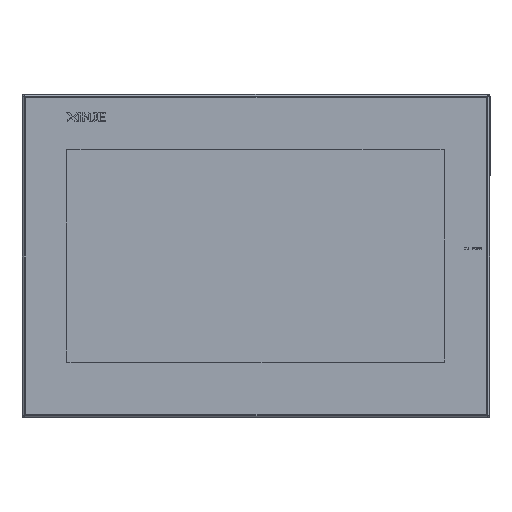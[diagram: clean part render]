
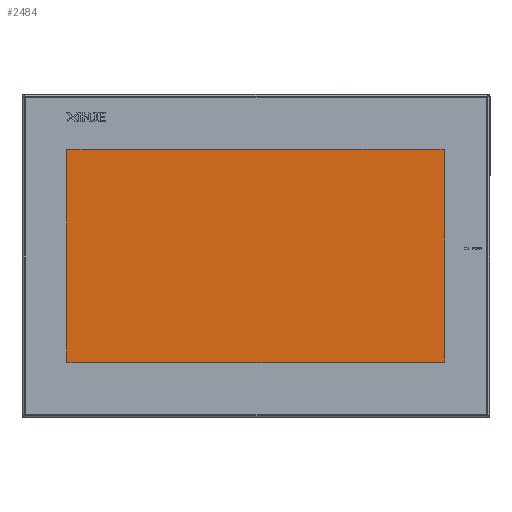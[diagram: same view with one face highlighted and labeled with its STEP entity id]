
A CAD part, front view. The second image highlights one B-rep face of the part: STEP entity #2484.
In plain terms, the highlighted planar face has unit normal (0, 1, 0).
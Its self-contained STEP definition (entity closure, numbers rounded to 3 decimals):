
#2484=ADVANCED_FACE('',(#7911),#87123,.T.);
#7911=FACE_OUTER_BOUND('',#13123,.T.);
#13123=EDGE_LOOP('',(#18550));
#18550=ORIENTED_EDGE('',*,*,#48409,.T.);
#48409=EDGE_CURVE('',#77174,#77174,#63372,.T.);
#63372=B_SPLINE_CURVE_WITH_KNOTS('',1,(#100071,#100072,#100073,#100074,
#100075),.UNSPECIFIED.,.T.,.F.,(2,1,1,1,2),(0.,634.11,992.126,1626.236,
1984.252),.UNSPECIFIED.);
#77174=VERTEX_POINT('',#100070);
#87123=PLANE('',#91345);
#91345=AXIS2_PLACEMENT_3D('',#100069,#95535,$);
#95535=DIRECTION('',(0.,1.,0.));
#100069=CARTESIAN_POINT('',(-404.43,-299.275,52.521));
#100070=CARTESIAN_POINT('',(-404.43,-299.275,52.521));
#100071=CARTESIAN_POINT('',(-404.43,-299.275,52.521));
#100072=CARTESIAN_POINT('',(-180.73,-299.275,52.521));
#100073=CARTESIAN_POINT('',(-180.73,-299.275,-73.779));
#100074=CARTESIAN_POINT('',(-404.43,-299.275,-73.779));
#100075=CARTESIAN_POINT('',(-404.43,-299.275,52.521));
